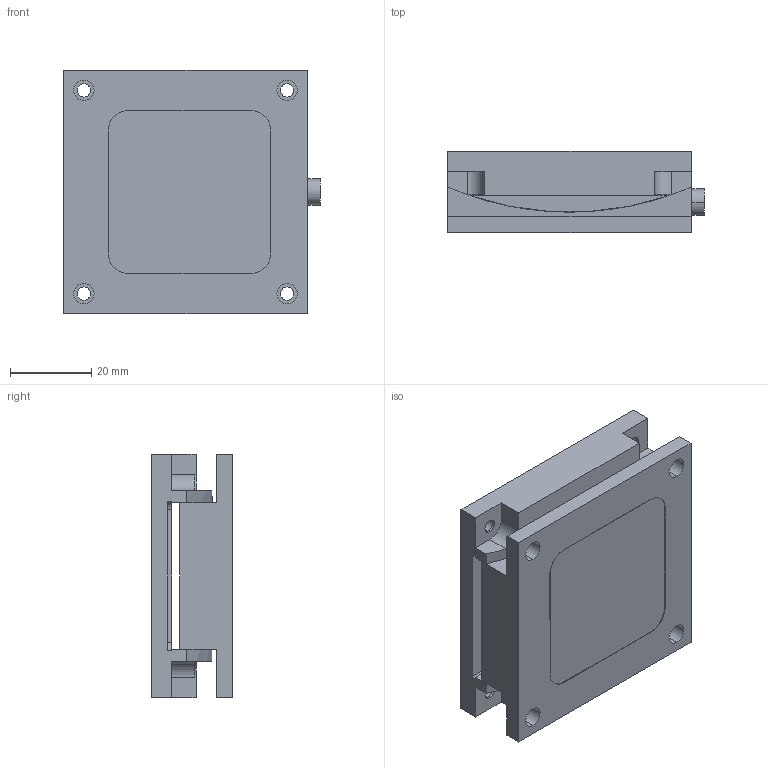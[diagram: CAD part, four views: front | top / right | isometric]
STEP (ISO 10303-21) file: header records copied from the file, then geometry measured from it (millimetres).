
FILE_DESCRIPTION (( 'STEP AP203' ), '1' );
FILE_NAME ('TS-6051FX.STEP', '2015-11-24T07:06:32', ( '' ), ( '' ), 'SwSTEP 2.0', 'SolidWorks 2011', '' );
FILE_SCHEMA (( 'CONFIG_CONTROL_DESIGN' ));
Length unit declared in the file: millimetre
Products named in the file (3): TS-6051FX; TS-6051FX-1; TS-6051FX-2
Assembly tree (2 placements, depth 2):
  TS-6051FX
    TS-6051FX-2
    TS-6051FX-1
Bounding box: 63.2 x 20 x 60 mm (x, y, z)
Volume: 57581 mm3; surface area: 21144.4 mm2
Topology: 2 solids, 2 shells, 127 faces, 318 edges, 208 vertices
Faces by surface type: plane 63, cylinder 60, bspline 4
Entity records: 4321 total; most frequent: CARTESIAN_POINT 834, DIRECTION 698, ORIENTED_EDGE 636, EDGE_CURVE 318, AXIS2_PLACEMENT_3D 260, VERTEX_POINT 208, LINE 178, VECTOR 178
